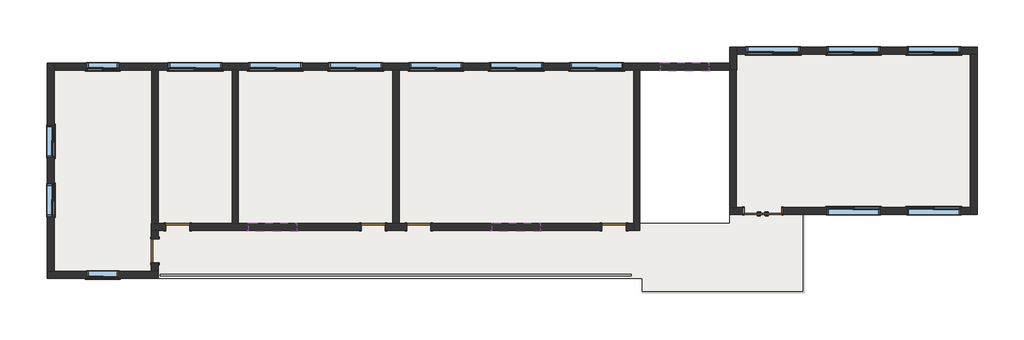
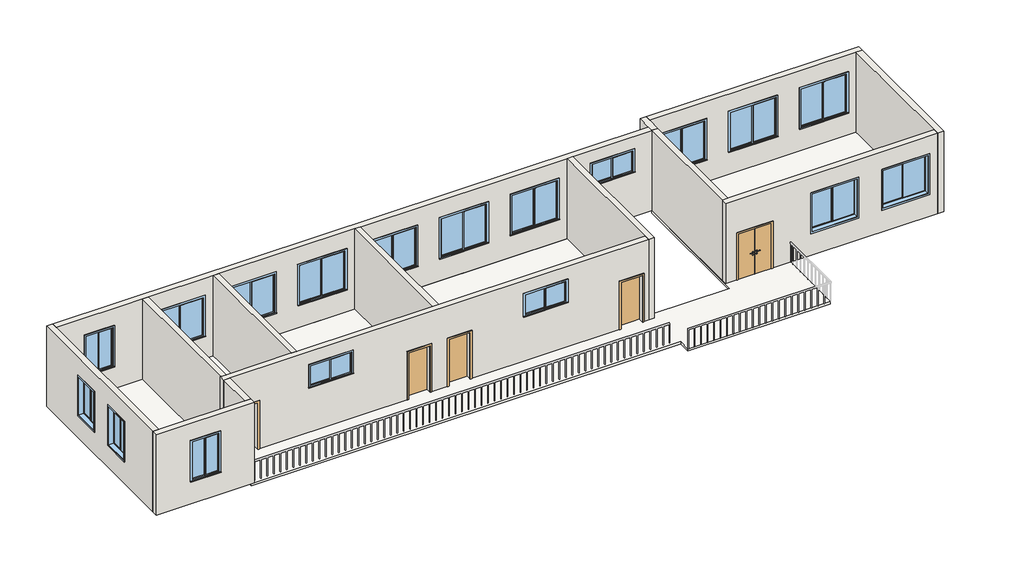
# One storey, part 1 of 2: 18 windows, 14 walls, 6 doors, 1 slab.
"""IFC4 building model written with IfcOpenShell, lengths in millimetres."""

from ifc_helpers import new_model, si_unit, frame, origin, place, context, project, spatial, polyline, outline, extrude, faceted_brep, transform, mapped, element, save
from components import m1_f3cb3123, m1_ab81c9c2, m2_9ba113ef, c1_f694383f, c2_0d9a7da2, c3_ebe1f937

model = new_model("IFC4")

# Units and contexts
model_context = context("Model", 3, world=origin())
ifc_project = project(units=[si_unit("LENGTHUNIT", "METRE", prefix="MILLI")], contexts=[model_context])

# Site, building, storey
site = spatial("IfcSite", under=ifc_project)
building = spatial("IfcBuilding", under=site)
storey = spatial("IfcBuildingStorey", under=building, Name="标高 3", Elevation=7200.0)

# Doors
placement = place(None, origin())
m1_shape = m1_f3cb3123(model_context)
element("IfcDoor", 1, ObjectType="单扇 - 与墙齐 : M1", at=placement, inside=storey, context=model_context, shape_type="MappedRepresentation", body=[
    mapped(m1_shape, transform((-4580.3834175, -5250.9601487, 7200.0), x_axis=(0.0, -1.0, 0.0), y_axis=(1.0, 0.0, 0.0), z_axis=(0.0, 0.0, 1.0))),
])
element("IfcDoor", 2, ObjectType="单扇 - 与墙齐 : M1", at=placement, inside=storey, context=model_context, shape_type="MappedRepresentation", body=[
    mapped(m1_shape, transform((-3730.3834175, -4350.9601487, 7200.0), x_axis=(-1.0, 0.0, 0.0), y_axis=(0.0, -1.0, 0.0), z_axis=(0.0, 0.0, 1.0))),
])
element("IfcDoor", 3, ObjectType="单扇 - 与墙齐 : M1", at=placement, inside=storey, context=model_context, shape_type="MappedRepresentation", body=[
    mapped(m1_shape, transform((5269.6165825, -4350.9601487, 7200.0), x_axis=(-1.0, 0.0, 0.0), y_axis=(0.0, -1.0, 0.0), z_axis=(0.0, 0.0, 1.0))),
])
m1_2_shape = m1_ab81c9c2(model_context)
element("IfcDoor", 4, ObjectType="单扇 - 与墙齐 : M1", at=placement, inside=storey, context=model_context, shape_type="MappedRepresentation", body=[
    mapped(m1_2_shape, transform((3569.6165825, -4350.9601487, 7200.0), x_axis=(1.0, 0.0, 0.0), y_axis=(0.0, 1.0, 0.0), z_axis=(0.0, 0.0, 1.0))),
])
element("IfcDoor", 5, ObjectType="单扇 - 与墙齐 : M1", at=placement, inside=storey, context=model_context, shape_type="MappedRepresentation", body=[
    mapped(m1_2_shape, transform((12569.6165825, -4350.9601487, 7200.0), x_axis=(1.0, 0.0, 0.0), y_axis=(0.0, 1.0, 0.0), z_axis=(0.0, 0.0, 1.0))),
])
m2_shape = m2_9ba113ef(model_context)
element("IfcDoor", 6, ObjectType="双面嵌板木门 1 : M2", at=placement, inside=storey, context=model_context, shape_type="MappedRepresentation", body=[
    mapped(m2_shape, transform((18129.6165825, -3750.9601487, 7200.0), x_axis=(1.0, 0.0, 0.0), y_axis=(0.0, 1.0, 0.0), z_axis=(0.0, 0.0, 1.0))),
])

# Slab
element("IfcSlab", 7, ObjectType="常规 - 100mm", at=placement, inside=storey, context=model_context, shape_type="SweptSolid", body=[
    extrude(outline(polyline([(17149.6165825, 1519.0398513), (17149.6165825, 2119.0398513), (25889.6165825, 2119.0398513), (25889.6165825, -3620.9601487), (19659.6165825, -3620.9601487), (19659.6165825, -6800.9601487), (13619.6165825, -6800.9601487), (13619.6165825, -6280.9601487), (-4580.3834175, -6280.9601487), (-4580.3834175, -6020.9601487), (-8350.3834175, -6020.9601487), (-8350.3834175, 1519.0398513), (13539.6165825, 1519.0398513), (13539.6165825, -4220.9601487), (16889.6165825, -4220.9601487), (16889.6165825, 1519.0398513), (17149.6165825, 1519.0398513)])), frame((0.0, 0.0, 7100.0), z_axis=(0.0, 0.0, 1.0), x_axis=(1.0, 0.0, 0.0)), (0.0, 0.0, 1.0), 100.0),
])

# Walls
element("IfcWall", 8, ObjectType="外墙", at=placement, inside=storey, context=model_context, shape_type="Brep", body=[
    faceted_brep([(-4450.3834175, -6020.9601487, 7200.0), (-4710.3834175, -6020.9601487, 7200.0), (-8350.3834175, -6020.9601487, 7200.0), (-8610.3834175, -6020.9601487, 7200.0), (-8610.3834175, -6020.9601487, 10800.0), (-8350.3834175, -6020.9601487, 10800.0), (-4710.3834175, -6020.9601487, 10800.0), (-4450.3834175, -6020.9601487, 10800.0), (-7130.3834175, -6020.9601487, 10000.0), (-7130.3834175, -6020.9601487, 8200.0), (-5930.3834175, -6020.9601487, 8200.0), (-5930.3834175, -6020.9601487, 10000.0), (-4450.3834175, -6280.9601487, 7200.0), (-4450.3834175, -6280.9601487, 10800.0), (-8610.3834175, -6280.9601487, 10800.0), (-8610.3834175, -6280.9601487, 7200.0), (-7130.3834175, -6280.9601487, 10000.0), (-5930.3834175, -6280.9601487, 10000.0), (-5930.3834175, -6280.9601487, 8200.0), (-7130.3834175, -6280.9601487, 8200.0)], [[[0, 1, 2, 3, 4, 5, 6, 7], [8, 9, 10, 11]], [[12, 13, 14, 15], [16, 17, 18, 19]], [[3, 2, 1, 0, 12, 15]], [[7, 6, 5, 4, 14, 13]], [[4, 3, 15, 14]], [[0, 7, 13, 12]], [[9, 8, 16, 19]], [[10, 9, 19, 18]], [[11, 10, 18, 17]], [[8, 11, 17, 16]]]),
])
element("IfcWall", 9, ObjectType="外墙", at=placement, inside=storey, context=model_context, shape_type="Brep", body=[
    faceted_brep([(-8350.3834175, -6020.9601487, 7200.0), (-8350.3834175, 1519.0398513, 7200.0), (-8350.3834175, 1779.0398513, 7200.0), (-8350.3834175, 1779.0398513, 10800.0), (-8350.3834175, 1519.0398513, 10800.0), (-8350.3834175, -6020.9601487, 10800.0), (-8350.3834175, -1750.9601487, 10000.0), (-8350.3834175, -550.9601487, 10000.0), (-8350.3834175, -550.9601487, 8200.0), (-8350.3834175, -1750.9601487, 8200.0), (-8350.3834175, -3950.9601487, 10000.0), (-8350.3834175, -2750.9601487, 10000.0), (-8350.3834175, -2750.9601487, 8200.0), (-8350.3834175, -3950.9601487, 8200.0), (-8610.3834175, -6020.9601487, 7200.0), (-8610.3834175, -6020.9601487, 10800.0), (-8610.3834175, 1779.0398513, 10800.0), (-8610.3834175, 1779.0398513, 7200.0), (-8610.3834175, -1750.9601487, 10000.0), (-8610.3834175, -1750.9601487, 8200.0), (-8610.3834175, -550.9601487, 8200.0), (-8610.3834175, -550.9601487, 10000.0), (-8610.3834175, -3950.9601487, 10000.0), (-8610.3834175, -3950.9601487, 8200.0), (-8610.3834175, -2750.9601487, 8200.0), (-8610.3834175, -2750.9601487, 10000.0)], [[[0, 1, 2, 3, 4, 5], [6, 7, 8, 9], [10, 11, 12, 13]], [[14, 15, 16, 17], [18, 19, 20, 21], [22, 23, 24, 25]], [[2, 1, 0, 14, 17]], [[5, 4, 3, 16, 15]], [[0, 5, 15, 14]], [[3, 2, 17, 16]], [[19, 18, 6, 9]], [[20, 19, 9, 8]], [[21, 20, 8, 7]], [[18, 21, 7, 6]], [[23, 22, 10, 13]], [[24, 23, 13, 12]], [[25, 24, 12, 11]], [[22, 25, 11, 10]]]),
])
element("IfcWall", 10, ObjectType="外墙", at=placement, inside=storey, context=model_context, shape_type="Brep", body=[
    faceted_brep([(-8350.3834175, 1519.0398513, 7200.0), (-4700.3834175, 1519.0398513, 7200.0), (-4460.3834175, 1519.0398513, 7200.0), (-1700.3834175, 1519.0398513, 7200.0), (-1460.3834175, 1519.0398513, 7200.0), (4299.6165825, 1519.0398513, 7200.0), (4539.6165825, 1519.0398513, 7200.0), (13299.6165825, 1519.0398513, 7200.0), (13539.6165825, 1519.0398513, 7200.0), (16889.6165825, 1519.0398513, 7200.0), (16889.6165825, 1519.0398513, 10800.0), (13539.6165825, 1519.0398513, 10800.0), (13299.6165825, 1519.0398513, 10800.0), (4539.6165825, 1519.0398513, 10800.0), (4299.6165825, 1519.0398513, 10800.0), (-1460.3834175, 1519.0398513, 10800.0), (-1700.3834175, 1519.0398513, 10800.0), (-4460.3834175, 1519.0398513, 10800.0), (-4700.3834175, 1519.0398513, 10800.0), (-8350.3834175, 1519.0398513, 10800.0), (-7130.3834175, 1519.0398513, 10000.0), (-5930.3834175, 1519.0398513, 10000.0), (-5930.3834175, 1519.0398513, 8200.0), (-7130.3834175, 1519.0398513, 8200.0), (-4080.3834175, 1519.0398513, 10000.0), (-2080.3834175, 1519.0398513, 10000.0), (-2080.3834175, 1519.0398513, 8200.0), (-4080.3834175, 1519.0398513, 8200.0), (-1080.3834175, 1519.0398513, 10000.0), (919.6165825, 1519.0398513, 10000.0), (919.6165825, 1519.0398513, 8200.0), (-1080.3834175, 1519.0398513, 8200.0), (1919.6165825, 1519.0398513, 10000.0), (3919.6165825, 1519.0398513, 10000.0), (3919.6165825, 1519.0398513, 8200.0), (1919.6165825, 1519.0398513, 8200.0), (4919.6165825, 1519.0398513, 10000.0), (6919.6165825, 1519.0398513, 10000.0), (6919.6165825, 1519.0398513, 8200.0), (4919.6165825, 1519.0398513, 8200.0), (7919.6165825, 1519.0398513, 10000.0), (9919.6165825, 1519.0398513, 10000.0), (9919.6165825, 1519.0398513, 8200.0), (7919.6165825, 1519.0398513, 8200.0), (10919.6165825, 1519.0398513, 10000.0), (12919.6165825, 1519.0398513, 10000.0), (12919.6165825, 1519.0398513, 8200.0), (10919.6165825, 1519.0398513, 8200.0), (14319.6165825, 1519.0398513, 10200.0), (16119.6165825, 1519.0398513, 10200.0), (16119.6165825, 1519.0398513, 9200.0), (14319.6165825, 1519.0398513, 9200.0), (-8350.3834175, 1779.0398513, 7200.0), (-8350.3834175, 1779.0398513, 10800.0), (16889.6165825, 1779.0398513, 10800.0), (16889.6165825, 1779.0398513, 7200.0), (-7130.3834175, 1779.0398513, 10000.0), (-7130.3834175, 1779.0398513, 8200.0), (-5930.3834175, 1779.0398513, 8200.0), (-5930.3834175, 1779.0398513, 10000.0), (-4080.3834175, 1779.0398513, 10000.0), (-4080.3834175, 1779.0398513, 8200.0), (-2080.3834175, 1779.0398513, 8200.0), (-2080.3834175, 1779.0398513, 10000.0), (-1080.3834175, 1779.0398513, 10000.0), (-1080.3834175, 1779.0398513, 8200.0), (919.6165825, 1779.0398513, 8200.0), (919.6165825, 1779.0398513, 10000.0), (1919.6165825, 1779.0398513, 10000.0), (1919.6165825, 1779.0398513, 8200.0), (3919.6165825, 1779.0398513, 8200.0), (3919.6165825, 1779.0398513, 10000.0), (4919.6165825, 1779.0398513, 10000.0), (4919.6165825, 1779.0398513, 8200.0), (6919.6165825, 1779.0398513, 8200.0), (6919.6165825, 1779.0398513, 10000.0), (7919.6165825, 1779.0398513, 10000.0), (7919.6165825, 1779.0398513, 8200.0), (9919.6165825, 1779.0398513, 8200.0), (9919.6165825, 1779.0398513, 10000.0), (10919.6165825, 1779.0398513, 10000.0), (10919.6165825, 1779.0398513, 8200.0), (12919.6165825, 1779.0398513, 8200.0), (12919.6165825, 1779.0398513, 10000.0), (14319.6165825, 1779.0398513, 10200.0), (14319.6165825, 1779.0398513, 9200.0), (16119.6165825, 1779.0398513, 9200.0), (16119.6165825, 1779.0398513, 10200.0)], [[[0, 1, 2, 3, 4, 5, 6, 7, 8, 9, 10, 11, 12, 13, 14, 15, 16, 17, 18, 19], [20, 21, 22, 23], [24, 25, 26, 27], [28, 29, 30, 31], [32, 33, 34, 35], [36, 37, 38, 39], [40, 41, 42, 43], [44, 45, 46, 47], [48, 49, 50, 51]], [[52, 53, 54, 55], [56, 57, 58, 59], [60, 61, 62, 63], [64, 65, 66, 67], [68, 69, 70, 71], [72, 73, 74, 75], [76, 77, 78, 79], [80, 81, 82, 83], [84, 85, 86, 87]], [[9, 8, 7, 6, 5, 4, 3, 2, 1, 0, 52, 55]], [[19, 18, 17, 16, 15, 14, 13, 12, 11, 10, 54, 53]], [[0, 19, 53, 52]], [[10, 9, 55, 54]], [[57, 56, 20, 23]], [[58, 57, 23, 22]], [[59, 58, 22, 21]], [[56, 59, 21, 20]], [[61, 60, 24, 27]], [[62, 61, 27, 26]], [[63, 62, 26, 25]], [[60, 63, 25, 24]], [[65, 64, 28, 31]], [[66, 65, 31, 30]], [[67, 66, 30, 29]], [[64, 67, 29, 28]], [[69, 68, 32, 35]], [[70, 69, 35, 34]], [[71, 70, 34, 33]], [[68, 71, 33, 32]], [[73, 72, 36, 39]], [[74, 73, 39, 38]], [[75, 74, 38, 37]], [[72, 75, 37, 36]], [[77, 76, 40, 43]], [[78, 77, 43, 42]], [[79, 78, 42, 41]], [[76, 79, 41, 40]], [[81, 80, 44, 47]], [[82, 81, 47, 46]], [[83, 82, 46, 45]], [[80, 83, 45, 44]], [[85, 84, 48, 51]], [[86, 85, 51, 50]], [[87, 86, 50, 49]], [[84, 87, 49, 48]]]),
])
element("IfcWall", 11, ObjectType="外墙", at=placement, inside=storey, context=model_context, shape_type="Brep", body=[
    faceted_brep([(17149.6165825, 1519.0398513, 7200.0), (17149.6165825, 2119.0398513, 7200.0), (17149.6165825, 2379.0398513, 7200.0), (17149.6165825, 2379.0398513, 10800.0), (17149.6165825, 2119.0398513, 10800.0), (17149.6165825, 1519.0398513, 10800.0), (16889.6165825, 1519.0398513, 7200.0), (16889.6165825, 1519.0398513, 10800.0), (16889.6165825, 1779.0398513, 10800.0), (16889.6165825, 2379.0398513, 10800.0), (16889.6165825, 2379.0398513, 7200.0), (16889.6165825, 1779.0398513, 7200.0), (17139.6165825, 1519.0398513, 7200.0), (16899.6165825, 1519.0398513, 7200.0), (16899.6165825, 1519.0398513, 10800.0), (17139.6165825, 1519.0398513, 10800.0)], [[[0, 1, 2, 3, 4, 5]], [[6, 7, 8, 9, 10, 11]], [[2, 1, 0, 12, 13, 6, 11, 10]], [[5, 4, 3, 9, 8, 7, 14, 15]], [[0, 5, 15, 14, 7, 6, 13, 12]], [[3, 2, 10, 9]]]),
])
element("IfcWall", 12, ObjectType="外墙", at=placement, inside=storey, context=model_context, shape_type="Brep", body=[
    faceted_brep([(17149.6165825, 2119.0398513, 7200.0), (25889.6165825, 2119.0398513, 7200.0), (26149.6165825, 2119.0398513, 7200.0), (26149.6165825, 2119.0398513, 10800.0), (25889.6165825, 2119.0398513, 10800.0), (17149.6165825, 2119.0398513, 10800.0), (17519.6165825, 2119.0398513, 10000.0), (19519.6165825, 2119.0398513, 10000.0), (19519.6165825, 2119.0398513, 8200.0), (17519.6165825, 2119.0398513, 8200.0), (20519.6165825, 2119.0398513, 10000.0), (22519.6165825, 2119.0398513, 10000.0), (22519.6165825, 2119.0398513, 8200.0), (20519.6165825, 2119.0398513, 8200.0), (23519.6165825, 2119.0398513, 10000.0), (25519.6165825, 2119.0398513, 10000.0), (25519.6165825, 2119.0398513, 8200.0), (23519.6165825, 2119.0398513, 8200.0), (17149.6165825, 2379.0398513, 7200.0), (17149.6165825, 2379.0398513, 10800.0), (26149.6165825, 2379.0398513, 10800.0), (26149.6165825, 2379.0398513, 7200.0), (17519.6165825, 2379.0398513, 10000.0), (17519.6165825, 2379.0398513, 8200.0), (19519.6165825, 2379.0398513, 8200.0), (19519.6165825, 2379.0398513, 10000.0), (20519.6165825, 2379.0398513, 10000.0), (20519.6165825, 2379.0398513, 8200.0), (22519.6165825, 2379.0398513, 8200.0), (22519.6165825, 2379.0398513, 10000.0), (23519.6165825, 2379.0398513, 10000.0), (23519.6165825, 2379.0398513, 8200.0), (25519.6165825, 2379.0398513, 8200.0), (25519.6165825, 2379.0398513, 10000.0)], [[[0, 1, 2, 3, 4, 5], [6, 7, 8, 9], [10, 11, 12, 13], [14, 15, 16, 17]], [[18, 19, 20, 21], [22, 23, 24, 25], [26, 27, 28, 29], [30, 31, 32, 33]], [[2, 1, 0, 18, 21]], [[5, 4, 3, 20, 19]], [[0, 5, 19, 18]], [[3, 2, 21, 20]], [[23, 22, 6, 9]], [[24, 23, 9, 8]], [[25, 24, 8, 7]], [[22, 25, 7, 6]], [[27, 26, 10, 13]], [[28, 27, 13, 12]], [[29, 28, 12, 11]], [[26, 29, 11, 10]], [[31, 30, 14, 17]], [[32, 31, 17, 16]], [[33, 32, 16, 15]], [[30, 33, 15, 14]]]),
])
element("IfcWall", 13, ObjectType="外墙", at=placement, inside=storey, context=model_context, shape_type="Brep", body=[
    faceted_brep([(25889.6165825, 2119.0398513, 7200.0), (25889.6165825, -3620.9601487, 7200.0), (25889.6165825, -3880.9601487, 7200.0), (25889.6165825, -3880.9601487, 10800.0), (25889.6165825, -3620.9601487, 10800.0), (25889.6165825, 2119.0398513, 10800.0), (26149.6165825, 2119.0398513, 7200.0), (26149.6165825, 2119.0398513, 10800.0), (26149.6165825, -3880.9601487, 10800.0), (26149.6165825, -3880.9601487, 7200.0)], [[[0, 1, 2, 3, 4, 5]], [[6, 7, 8, 9]], [[2, 1, 0, 6, 9]], [[5, 4, 3, 8, 7]], [[0, 5, 7, 6]], [[3, 2, 9, 8]]]),
])
element("IfcWall", 14, ObjectType="外墙", at=placement, inside=storey, context=model_context, shape_type="Brep", body=[
    faceted_brep([(16899.6165825, -3620.9601487, 10800.0), (17139.6165825, -3620.9601487, 10800.0), (25889.6165825, -3620.9601487, 10800.0), (25889.6165825, -3620.9601487, 7200.0), (18879.6165825, -3620.9601487, 7200.0), (18879.6165825, -3620.9601487, 9300.0), (17379.6165825, -3620.9601487, 9300.0), (17379.6165825, -3620.9601487, 7200.0), (17139.6165825, -3620.9601487, 7200.0), (16899.6165825, -3620.9601487, 7200.0), (22519.6165825, -3620.9601487, 10000.0), (20519.6165825, -3620.9601487, 10000.0), (20519.6165825, -3620.9601487, 8200.0), (22519.6165825, -3620.9601487, 8200.0), (25519.6165825, -3620.9601487, 10000.0), (23519.6165825, -3620.9601487, 10000.0), (23519.6165825, -3620.9601487, 8200.0), (25519.6165825, -3620.9601487, 8200.0), (25889.6165825, -3880.9601487, 10800.0), (16899.6165825, -3880.9601487, 10800.0), (16899.6165825, -3880.9601487, 7200.0), (17379.6165825, -3880.9601487, 7200.0), (17379.6165825, -3880.9601487, 9300.0), (18879.6165825, -3880.9601487, 9300.0), (18879.6165825, -3880.9601487, 7200.0), (25889.6165825, -3880.9601487, 7200.0), (22519.6165825, -3880.9601487, 10000.0), (22519.6165825, -3880.9601487, 8200.0), (20519.6165825, -3880.9601487, 8200.0), (20519.6165825, -3880.9601487, 10000.0), (25519.6165825, -3880.9601487, 10000.0), (25519.6165825, -3880.9601487, 8200.0), (23519.6165825, -3880.9601487, 8200.0), (23519.6165825, -3880.9601487, 10000.0)], [[[0, 1, 2, 3, 4, 5, 6, 7, 8, 9], [10, 11, 12, 13], [14, 15, 16, 17]], [[18, 19, 20, 21, 22, 23, 24, 25], [26, 27, 28, 29], [30, 31, 32, 33]], [[3, 25, 24, 4]], [[20, 9, 8, 7, 21]], [[2, 1, 0, 19, 18]], [[3, 2, 18, 25]], [[0, 9, 20, 19]], [[27, 26, 10, 13]], [[28, 27, 13, 12]], [[29, 28, 12, 11]], [[26, 29, 11, 10]], [[31, 30, 14, 17]], [[32, 31, 17, 16]], [[33, 32, 16, 15]], [[30, 33, 15, 14]], [[23, 5, 4, 24]], [[5, 23, 22, 6]], [[6, 22, 21, 7]]]),
])
element("IfcWall", 15, ObjectType="外墙", at=placement, inside=storey, context=model_context, shape_type="Brep", body=[
    faceted_brep([(13299.6165825, -4220.9601487, 7200.0), (13019.6165825, -4220.9601487, 7200.0), (13019.6165825, -4220.9601487, 9300.0), (12119.6165825, -4220.9601487, 9300.0), (12119.6165825, -4220.9601487, 7200.0), (5719.6165825, -4220.9601487, 7200.0), (5719.6165825, -4220.9601487, 9300.0), (4819.6165825, -4220.9601487, 9300.0), (4819.6165825, -4220.9601487, 7200.0), (4539.6165825, -4220.9601487, 7200.0), (4299.6165825, -4220.9601487, 7200.0), (4019.6165825, -4220.9601487, 7200.0), (4019.6165825, -4220.9601487, 9300.0), (3119.6165825, -4220.9601487, 9300.0), (3119.6165825, -4220.9601487, 7200.0), (-1460.3834175, -4220.9601487, 7200.0), (-1700.3834175, -4220.9601487, 7200.0), (-3280.3834175, -4220.9601487, 7200.0), (-3280.3834175, -4220.9601487, 9300.0), (-4180.3834175, -4220.9601487, 9300.0), (-4180.3834175, -4220.9601487, 7200.0), (-4460.3834175, -4220.9601487, 7200.0), (-4700.3834175, -4220.9601487, 7200.0), (-4710.3834175, -4220.9601487, 7200.0), (-4710.3834175, -4220.9601487, 10800.0), (-4700.3834175, -4220.9601487, 10800.0), (-4460.3834175, -4220.9601487, 10800.0), (-1700.3834175, -4220.9601487, 10800.0), (-1460.3834175, -4220.9601487, 10800.0), (4299.6165825, -4220.9601487, 10800.0), (4539.6165825, -4220.9601487, 10800.0), (13299.6165825, -4220.9601487, 10800.0), (8019.6165825, -4220.9601487, 10200.0), (8019.6165825, -4220.9601487, 9200.0), (9819.6165825, -4220.9601487, 9200.0), (9819.6165825, -4220.9601487, 10200.0), (-1080.3834175, -4220.9601487, 10200.0), (-1080.3834175, -4220.9601487, 9200.0), (719.6165825, -4220.9601487, 9200.0), (719.6165825, -4220.9601487, 10200.0), (13019.6165825, -4480.9601487, 9300.0), (13019.6165825, -4480.9601487, 7200.0), (13299.6165825, -4480.9601487, 7200.0), (13299.6165825, -4480.9601487, 10800.0), (-4450.3834175, -4480.9601487, 10800.0), (-4710.3834175, -4480.9601487, 10800.0), (-4710.3834175, -4480.9601487, 7200.0), (-4450.3834175, -4480.9601487, 7200.0), (-4180.3834175, -4480.9601487, 7200.0), (-4180.3834175, -4480.9601487, 9300.0), (-3280.3834175, -4480.9601487, 9300.0), (-3280.3834175, -4480.9601487, 7200.0), (3119.6165825, -4480.9601487, 7200.0), (3119.6165825, -4480.9601487, 9300.0), (4019.6165825, -4480.9601487, 9300.0), (4019.6165825, -4480.9601487, 7200.0), (4819.6165825, -4480.9601487, 7200.0), (4819.6165825, -4480.9601487, 9300.0), (5719.6165825, -4480.9601487, 9300.0), (5719.6165825, -4480.9601487, 7200.0), (12119.6165825, -4480.9601487, 7200.0), (12119.6165825, -4480.9601487, 9300.0), (8019.6165825, -4480.9601487, 10200.0), (9819.6165825, -4480.9601487, 10200.0), (9819.6165825, -4480.9601487, 9200.0), (8019.6165825, -4480.9601487, 9200.0), (-1080.3834175, -4480.9601487, 10200.0), (719.6165825, -4480.9601487, 10200.0), (719.6165825, -4480.9601487, 9200.0), (-1080.3834175, -4480.9601487, 9200.0)], [[[0, 1, 2, 3, 4, 5, 6, 7, 8, 9, 10, 11, 12, 13, 14, 15, 16, 17, 18, 19, 20, 21, 22, 23, 24, 25, 26, 27, 28, 29, 30, 31], [32, 33, 34, 35], [36, 37, 38, 39]], [[40, 41, 42, 43, 44, 45, 46, 47, 48, 49, 50, 51, 52, 53, 54, 55, 56, 57, 58, 59, 60, 61], [62, 63, 64, 65], [66, 67, 68, 69]], [[52, 51, 17, 16, 15, 14]], [[56, 55, 11, 10, 9, 8]], [[60, 59, 5, 4]], [[42, 41, 1, 0]], [[23, 22, 21, 20, 48, 47, 46]], [[31, 30, 29, 28, 27, 26, 25, 24, 45, 44, 43]], [[24, 23, 46, 45]], [[33, 32, 62, 65]], [[34, 33, 65, 64]], [[35, 34, 64, 63]], [[32, 35, 63, 62]], [[37, 36, 66, 69]], [[38, 37, 69, 68]], [[39, 38, 68, 67]], [[36, 39, 67, 66]], [[49, 48, 20, 19]], [[50, 49, 19, 18]], [[51, 50, 18, 17]], [[57, 56, 8, 7]], [[58, 57, 7, 6]], [[59, 58, 6, 5]], [[12, 11, 55, 54]], [[13, 12, 54, 53]], [[14, 13, 53, 52]], [[2, 1, 41, 40]], [[3, 2, 40, 61]], [[4, 3, 61, 60]], [[0, 31, 43, 42]]]),
])
element("IfcWall", 16, ObjectType="外墙", at=placement, inside=storey, context=model_context, shape_type="SweptSolid", body=[
    extrude(outline(polyline([(-5700.9601487, 9300.0), (-5700.9601487, 7200.0), (-6020.9601487, 7200.0), (-6020.9601487, 10800.0), (-4480.9601487, 10800.0), (-4480.9601487, 7200.0), (-4800.9601487, 7200.0), (-4800.9601487, 9300.0), (-5700.9601487, 9300.0)])), frame((-4710.3834175, 0.0, 0.0), z_axis=(1.0, 0.0, 0.0), x_axis=(0.0, 1.0, 0.0)), (0.0, 0.0, 1.0), 260.0),
])
element("IfcWall", 17, ObjectType="内墙", at=placement, inside=storey, context=model_context, shape_type="SweptSolid", body=[
    extrude(outline(polyline([(-4700.3834175, -4220.9601487), (-4700.3834175, 1519.0398513), (-4460.3834175, 1519.0398513), (-4460.3834175, -4220.9601487), (-4700.3834175, -4220.9601487)])), frame((0.0, 0.0, 7200.0), z_axis=(0.0, 0.0, 1.0), x_axis=(1.0, 0.0, 0.0)), (0.0, 0.0, 1.0), 3600.0),
])
element("IfcWall", 18, ObjectType="内墙", at=placement, inside=storey, context=model_context, shape_type="SweptSolid", body=[
    extrude(outline(polyline([(-1700.3834175, -4220.9601487), (-1700.3834175, 1519.0398513), (-1460.3834175, 1519.0398513), (-1460.3834175, -4220.9601487), (-1700.3834175, -4220.9601487)])), frame((0.0, 0.0, 7200.0), z_axis=(0.0, 0.0, 1.0), x_axis=(1.0, 0.0, 0.0)), (0.0, 0.0, 1.0), 3600.0),
])
element("IfcWall", 19, ObjectType="内墙", at=placement, inside=storey, context=model_context, shape_type="SweptSolid", body=[
    extrude(outline(polyline([(4299.6165825, -4220.9601487), (4299.6165825, 1519.0398513), (4539.6165825, 1519.0398513), (4539.6165825, -4220.9601487), (4299.6165825, -4220.9601487)])), frame((0.0, 0.0, 7200.0), z_axis=(0.0, 0.0, 1.0), x_axis=(1.0, 0.0, 0.0)), (0.0, 0.0, 1.0), 3600.0),
])
element("IfcWall", 20, ObjectType="内墙", at=placement, inside=storey, context=model_context, shape_type="Brep", body=[
    faceted_brep([(13299.6165825, 1519.0398513, 7200.0), (13299.6165825, -4220.9601487, 7200.0), (13299.6165825, -4480.9601487, 7200.0), (13299.6165825, -4480.9601487, 10800.0), (13299.6165825, -4220.9601487, 10800.0), (13299.6165825, 1519.0398513, 10800.0), (13539.6165825, 1519.0398513, 7200.0), (13539.6165825, 1519.0398513, 10800.0), (13539.6165825, -4480.9601487, 10800.0), (13539.6165825, -4480.9601487, 7200.0)], [[[0, 1, 2, 3, 4, 5]], [[6, 7, 8, 9]], [[2, 1, 0, 6, 9]], [[5, 4, 3, 8, 7]], [[0, 5, 7, 6]], [[3, 2, 9, 8]]]),
])
element("IfcWall", 21, ObjectType="内墙", at=placement, inside=storey, context=model_context, shape_type="SweptSolid", body=[
    extrude(outline(polyline([(16899.6165825, -3620.9601487), (16899.6165825, 1519.0398513), (17139.6165825, 1519.0398513), (17139.6165825, -3620.9601487), (16899.6165825, -3620.9601487)])), frame((0.0, 0.0, 7200.0), z_axis=(0.0, 0.0, 1.0), x_axis=(1.0, 0.0, 0.0)), (0.0, 0.0, 1.0), 3600.0),
])

# Windows
c1_shape = c1_f694383f(model_context)
element("IfcWindow", 22, ObjectType="推拉窗5 - 带贴面 : C1", at=placement, inside=storey, context=model_context, shape_type="MappedRepresentation", body=[
    mapped(c1_shape, transform((-6520.8584175, -6217.8335862, 7295.0), x_axis=(-1.0, 0.0, 0.0), y_axis=(0.0, -1.0, 0.0), z_axis=(0.0, 0.0, 1.0))),
])
element("IfcWindow", 23, ObjectType="推拉窗5 - 带贴面 : C1", at=placement, inside=storey, context=model_context, shape_type="MappedRepresentation", body=[
    mapped(c1_shape, transform((-8413.50998, -1141.4351487, 7295.0), x_axis=(0.0, -1.0, 0.0), y_axis=(1.0, 0.0, 0.0), z_axis=(0.0, 0.0, 1.0))),
])
element("IfcWindow", 24, ObjectType="推拉窗5 - 带贴面 : C1", at=placement, inside=storey, context=model_context, shape_type="MappedRepresentation", body=[
    mapped(c1_shape, transform((-6520.8584175, 1582.1664138, 7295.0), x_axis=(-1.0, 0.0, 0.0), y_axis=(0.0, -1.0, 0.0), z_axis=(0.0, 0.0, 1.0))),
])
element("IfcWindow", 25, ObjectType="推拉窗5 - 带贴面 : C1", at=placement, inside=storey, context=model_context, shape_type="MappedRepresentation", body=[
    mapped(c1_shape, transform((-8413.50998, -3341.4351487, 7295.0), x_axis=(0.0, -1.0, 0.0), y_axis=(1.0, 0.0, 0.0), z_axis=(0.0, 0.0, 1.0))),
])
c2_shape = c2_0d9a7da2(model_context)
element("IfcWindow", 26, ObjectType="推拉窗5 - 带贴面 : C2", at=placement, inside=storey, context=model_context, shape_type="MappedRepresentation", body=[
    mapped(c2_shape, transform((-3070.8584175, 1582.1664138, 7295.0), x_axis=(-1.0, 0.0, 0.0), y_axis=(0.0, -1.0, 0.0), z_axis=(0.0, 0.0, 1.0))),
])
element("IfcWindow", 27, ObjectType="推拉窗5 - 带贴面 : C2", at=placement, inside=storey, context=model_context, shape_type="MappedRepresentation", body=[
    mapped(c2_shape, transform((-70.8584175, 1582.1664138, 7295.0), x_axis=(-1.0, 0.0, 0.0), y_axis=(0.0, -1.0, 0.0), z_axis=(0.0, 0.0, 1.0))),
])
element("IfcWindow", 28, ObjectType="推拉窗5 - 带贴面 : C2", at=placement, inside=storey, context=model_context, shape_type="MappedRepresentation", body=[
    mapped(c2_shape, transform((2929.1415825, 1582.1664138, 7295.0), x_axis=(-1.0, 0.0, 0.0), y_axis=(0.0, -1.0, 0.0), z_axis=(0.0, 0.0, 1.0))),
])
element("IfcWindow", 29, ObjectType="推拉窗5 - 带贴面 : C2", at=placement, inside=storey, context=model_context, shape_type="MappedRepresentation", body=[
    mapped(c2_shape, transform((5929.1415825, 1582.1664138, 7295.0), x_axis=(-1.0, 0.0, 0.0), y_axis=(0.0, -1.0, 0.0), z_axis=(0.0, 0.0, 1.0))),
])
element("IfcWindow", 30, ObjectType="推拉窗5 - 带贴面 : C2", at=placement, inside=storey, context=model_context, shape_type="MappedRepresentation", body=[
    mapped(c2_shape, transform((8929.1415825, 1582.1664138, 7295.0), x_axis=(-1.0, 0.0, 0.0), y_axis=(0.0, -1.0, 0.0), z_axis=(0.0, 0.0, 1.0))),
])
element("IfcWindow", 31, ObjectType="推拉窗5 - 带贴面 : C2", at=placement, inside=storey, context=model_context, shape_type="MappedRepresentation", body=[
    mapped(c2_shape, transform((11929.1415825, 1582.1664138, 7295.0), x_axis=(-1.0, 0.0, 0.0), y_axis=(0.0, -1.0, 0.0), z_axis=(0.0, 0.0, 1.0))),
])
element("IfcWindow", 32, ObjectType="推拉窗5 - 带贴面 : C2", at=placement, inside=storey, context=model_context, shape_type="MappedRepresentation", body=[
    mapped(c2_shape, transform((18529.1415825, 2182.1664138, 7295.0), x_axis=(-1.0, 0.0, 0.0), y_axis=(0.0, -1.0, 0.0), z_axis=(0.0, 0.0, 1.0))),
])
element("IfcWindow", 33, ObjectType="推拉窗5 - 带贴面 : C2", at=placement, inside=storey, context=model_context, shape_type="MappedRepresentation", body=[
    mapped(c2_shape, transform((21529.1415825, 2182.1664138, 7295.0), x_axis=(-1.0, 0.0, 0.0), y_axis=(0.0, -1.0, 0.0), z_axis=(0.0, 0.0, 1.0))),
])
element("IfcWindow", 34, ObjectType="推拉窗5 - 带贴面 : C2", at=placement, inside=storey, context=model_context, shape_type="MappedRepresentation", body=[
    mapped(c2_shape, transform((24529.1415825, 2182.1664138, 7295.0), x_axis=(-1.0, 0.0, 0.0), y_axis=(0.0, -1.0, 0.0), z_axis=(0.0, 0.0, 1.0))),
])
element("IfcWindow", 35, ObjectType="推拉窗5 - 带贴面 : C2", at=placement, inside=storey, context=model_context, shape_type="MappedRepresentation", body=[
    mapped(c2_shape, transform((21510.0915825, -3684.0867112, 7295.0), x_axis=(1.0, 0.0, 0.0), y_axis=(0.0, 1.0, 0.0), z_axis=(0.0, 0.0, 1.0))),
])
element("IfcWindow", 36, ObjectType="推拉窗5 - 带贴面 : C2", at=placement, inside=storey, context=model_context, shape_type="MappedRepresentation", body=[
    mapped(c2_shape, transform((24510.0915825, -3684.0867112, 7295.0), x_axis=(1.0, 0.0, 0.0), y_axis=(0.0, 1.0, 0.0), z_axis=(0.0, 0.0, 1.0))),
])
c3_shape = c3_ebe1f937(model_context)
element("IfcWindow", 37, ObjectType="推拉窗5 - 带贴面 : C3", at=placement, inside=storey, context=model_context, shape_type="MappedRepresentation", body=[
    mapped(c3_shape, transform((15229.1415825, 1582.1664138, 8295.0), x_axis=(-1.0, 0.0, 0.0), y_axis=(0.0, -1.0, 0.0), z_axis=(0.0, 0.0, 1.0))),
])
element("IfcWindow", 38, ObjectType="推拉窗5 - 带贴面 : C3", at=placement, inside=storey, context=model_context, shape_type="MappedRepresentation", body=[
    mapped(c3_shape, transform((8929.1415825, -4417.8335862, 8295.0), x_axis=(-1.0, 0.0, 0.0), y_axis=(0.0, -1.0, 0.0), z_axis=(0.0, 0.0, 1.0))),
])
element("IfcWindow", 39, ObjectType="推拉窗5 - 带贴面 : C3", at=placement, inside=storey, context=model_context, shape_type="MappedRepresentation", body=[
    mapped(c3_shape, transform((-170.8584175, -4417.8335862, 8295.0), x_axis=(-1.0, 0.0, 0.0), y_axis=(0.0, -1.0, 0.0), z_axis=(0.0, 0.0, 1.0))),
])

save(model, "model.ifc")
